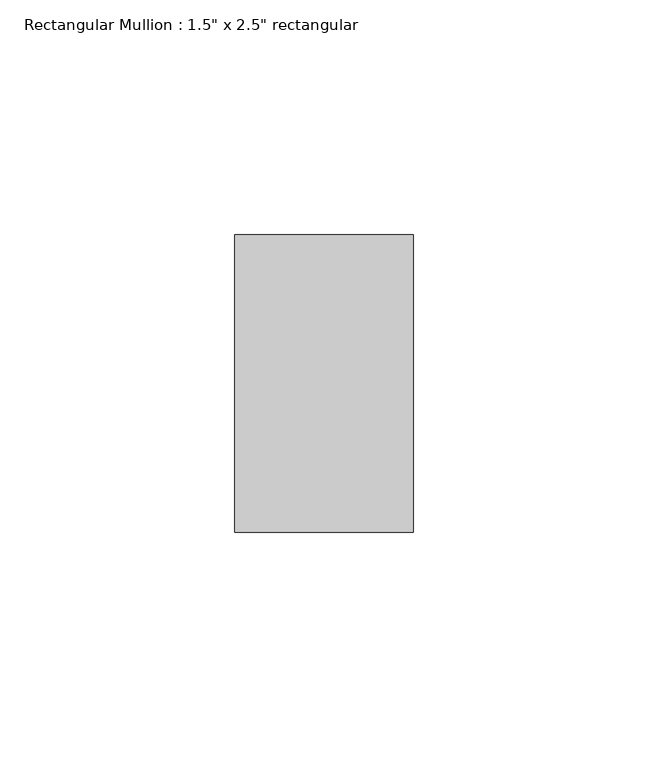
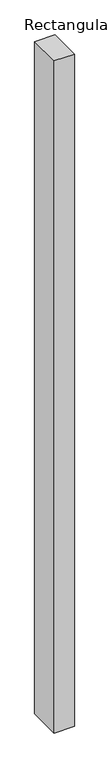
"""IFC4 building model written with IfcOpenShell, lengths in millimetres: member geometry."""

from ifc_helpers import new_model, si_unit, frame, origin, place, context, project, spatial, polyline, outline, extrude, source, transform, mapped, element, save


def member_a4666cf0(model_context):
    return source(origin(), model_context, "Body", "SweptSolid", [
        extrude(outline(polyline([(0.0, 31.75), (0.0, -31.75), (-38.1, -31.75), (-38.1, 31.75), (0.0, 31.75)])), frame((0.0, 0.0, -1339.0773828), z_axis=(0.0, 0.0, 1.0), x_axis=(1.0, 0.0, 0.0)), (0.0, 0.0, 1.0), 1339.0773828),
    ])


if __name__ == "__main__":
    model = new_model("IFC4")
    model_context = context("Model", 3, world=origin())
    ifc_project = project(units=[si_unit("LENGTHUNIT", "METRE", prefix="MILLI")], contexts=[model_context])
    site = spatial("IfcSite", under=ifc_project)
    building = spatial("IfcBuilding", under=site)
    placement = place(None, origin())
    member_shape = member_a4666cf0(model_context)
    element("IfcMember", 1, ObjectType="Rectangular Mullion : 1.5\" x 2.5\" rectangular", at=placement, inside=building, context=model_context, shape_type="MappedRepresentation", body=[
        mapped(member_shape, transform((0.0, 0.0, 0.0), x_axis=(1.0, 0.0, 0.0), y_axis=(0.0, 1.0, 0.0), z_axis=(0.0, 0.0, 1.0))),
    ])
    save(model, "model.ifc")
